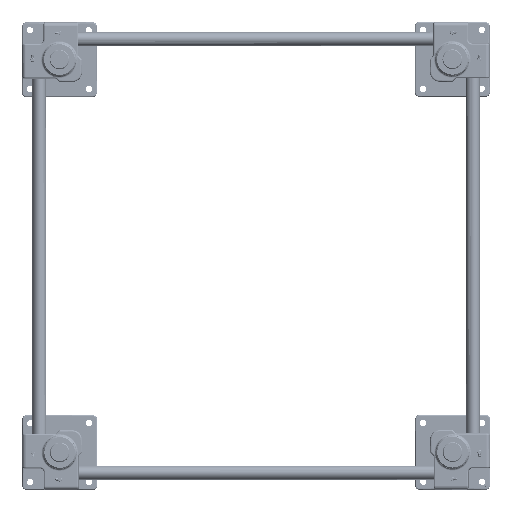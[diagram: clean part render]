
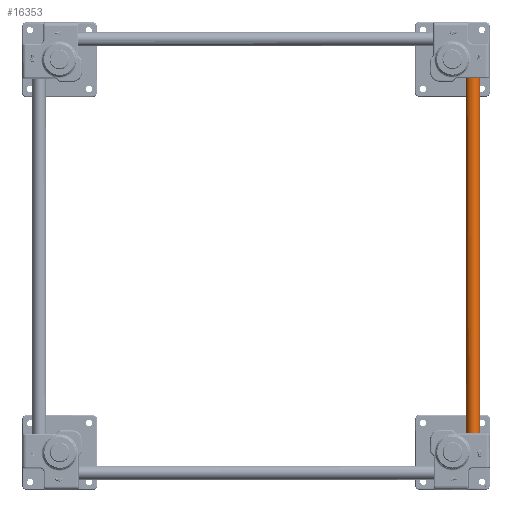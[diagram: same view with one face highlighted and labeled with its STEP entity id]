
A CAD part, top view. The second image highlights one B-rep face of the part: STEP entity #16353.
In plain terms, the highlighted cylindrical face has radius 17.5 mm (diameter 35 mm), a full revolution.
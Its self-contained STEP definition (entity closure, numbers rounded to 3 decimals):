
#16353=ADVANCED_FACE('',(#38633,#38634),#38635,.T.);
#38633=FACE_OUTER_BOUND('',#64944,.T.);
#38634=FACE_OUTER_BOUND('',#64945,.T.);
#38635=CYLINDRICAL_SURFACE('',#64946,17.5);
#64944=EDGE_LOOP('',(#151418));
#64945=EDGE_LOOP('',(#151419));
#64946=AXIS2_PLACEMENT_3D('',#151420,#151421,#151422);
#151418=ORIENTED_EDGE('',*,*,#178821,.T.);
#151419=ORIENTED_EDGE('',*,*,#178818,.T.);
#151420=CARTESIAN_POINT('',(0.0,0.0,1058.0));
#151421=DIRECTION('',(0.0,0.0,-1.0));
#151422=DIRECTION('',(-1.0,0.0,0.0));
#178818=EDGE_CURVE('',#224138,#224138,#224139,.F.);
#178821=EDGE_CURVE('',#224144,#224144,#224145,.T.);
#224138=VERTEX_POINT('',#302458);
#224139=CIRCLE('',#302459,17.5);
#224144=VERTEX_POINT('',#302464);
#224145=CIRCLE('',#302465,17.5);
#302458=CARTESIAN_POINT('',(17.5,0.0,1057.0));
#302459=AXIS2_PLACEMENT_3D('',#336590,#336591,#336592);
#302464=CARTESIAN_POINT('',(17.5,0.0,1.));
#302465=AXIS2_PLACEMENT_3D('',#336599,#336600,#336601);
#336590=CARTESIAN_POINT('',(0.0,0.0,1057.0));
#336591=DIRECTION('',(0.0,0.0,1.0));
#336592=DIRECTION('',(1.0,0.0,0.0));
#336599=CARTESIAN_POINT('',(0.0,0.0,1.));
#336600=DIRECTION('',(0.0,0.0,1.0));
#336601=DIRECTION('',(1.0,0.0,0.0));
